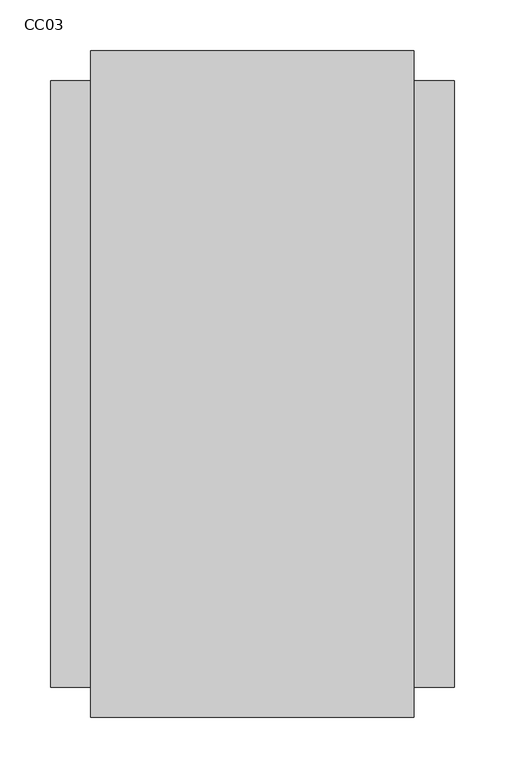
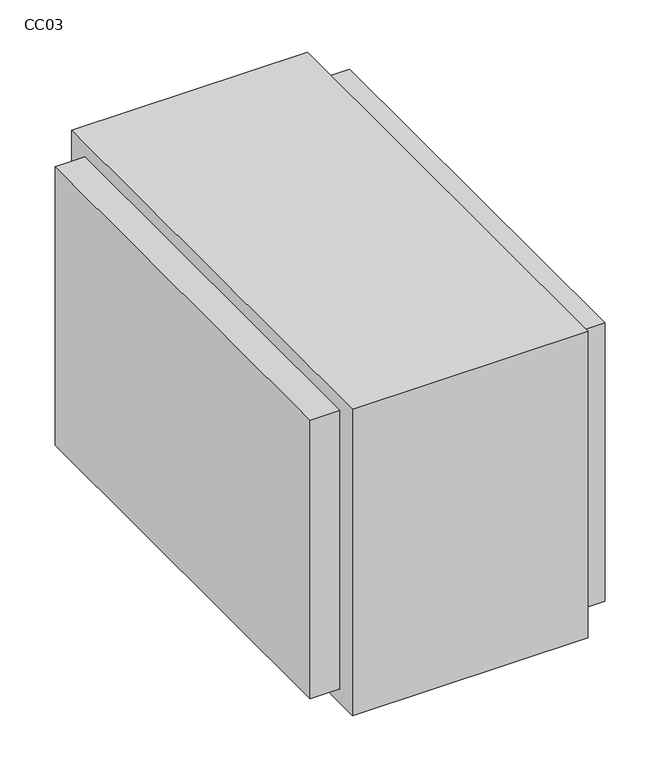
"""IFC4 building model written with IfcOpenShell, lengths in millimetres: damper geometry, ZYR_03.06.07 Comporta Talla Foc Rectangular CC : CC03."""

from ifc_helpers import new_model, si_unit, frame, origin, place, context, project, spatial, polyline, outline, extrude, source, transform, mapped, element, save


def cc03_956d6d8c(model_context):
    return source(origin(), model_context, "Body", "SweptSolid", [
        extrude(outline(polyline([(200.0, 300.0), (200.0, -300.0), (-200.0, -300.0), (-200.0, 300.0), (200.0, 300.0)])), frame((0.0, 0.0, -200.0), z_axis=(0.0, 0.0, 1.0), x_axis=(1.0, 0.0, 0.0)), (0.0, 0.0, 1.0), 400.0),
        extrude(outline(polyline([(330.0, 220.0), (330.0, -220.0), (-330.0, -220.0), (-330.0, 220.0), (330.0, 220.0)]), holes=[polyline([(300.0, 200.0), (-300.0, 200.0), (-300.0, -200.0), (300.0, -200.0), (300.0, 200.0)])]), frame((-160.0, 0.0, 0.0), z_axis=(1.0, 0.0, 0.0), x_axis=(0.0, 1.0, 0.0)), (0.0, 0.0, 1.0), 320.0),
    ])


if __name__ == "__main__":
    model = new_model("IFC4")
    model_context = context("Model", 3, world=origin())
    ifc_project = project(units=[si_unit("LENGTHUNIT", "METRE", prefix="MILLI")], contexts=[model_context])
    site = spatial("IfcSite", under=ifc_project)
    building = spatial("IfcBuilding", under=site)
    placement = place(None, origin())
    cc03_shape = cc03_956d6d8c(model_context)
    element("IfcDamper", 1, ObjectType="ZYR_03.06.07 Comporta Talla Foc Rectangular CC : CC03", at=placement, inside=building, context=model_context, shape_type="MappedRepresentation", body=[
        mapped(cc03_shape, transform((0.0, 0.0, 0.0), x_axis=(1.0, 0.0, 0.0), y_axis=(0.0, 1.0, 0.0), z_axis=(0.0, 0.0, 1.0))),
    ])
    save(model, "model.ifc")
